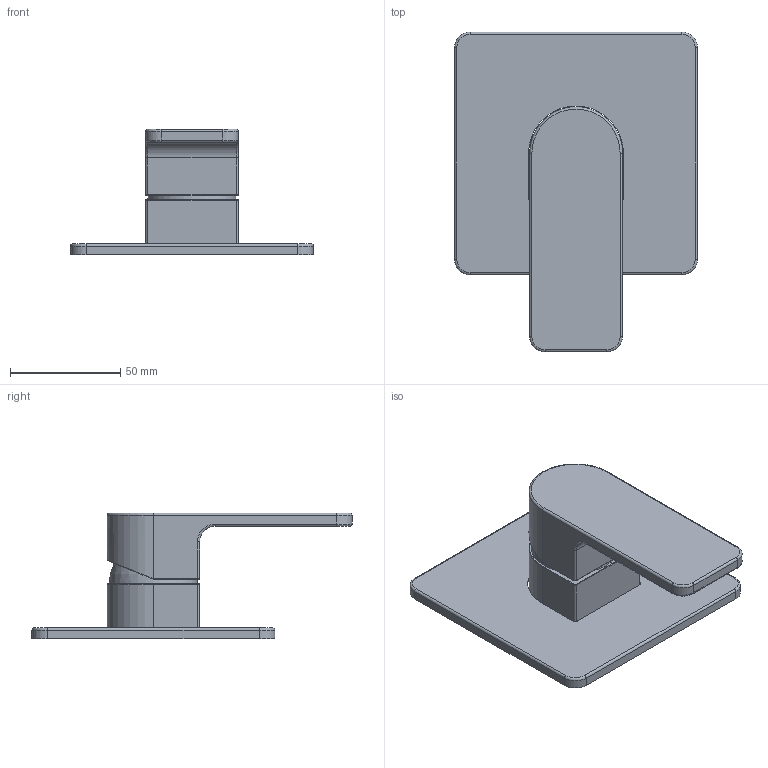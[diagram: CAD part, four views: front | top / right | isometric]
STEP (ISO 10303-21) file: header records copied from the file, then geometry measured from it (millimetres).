
FILE_DESCRIPTION(/* description */ (''),/* implementation_level */ '2;1');
FILE_NAME(/* name */ 'c:\worker\convert-fusion-oct-2018\tmp\job-1\220\output\files\af99626a-2cf7-445c-a564-237d67b48aa5\dbe8f491-6113-4ed8-9fa1-7cb6bf8140cf.stp',/* time_stamp */ '2018-10-17T11:35:19+00:00',/* author */ (''),/* organization */ (''),/* preprocessor_version */ 'ST-DEVELOPER v17.2',/* originating_system */ 'Autodesk Translation Framework v7.6.0.251',/* authorisation */ '');
FILE_SCHEMA (('AUTOMOTIVE_DESIGN { 1 0 10303 214 3 1 1 }'));
Length unit declared in the file: millimetre
Products named in the file (1): !BA7845
Bounding box: 110 x 145 x 57 mm (x, y, z)
Volume: 130469 mm3; surface area: 48801.4 mm2
Topology: 4 solids, 4 shells, 84 faces, 192 edges, 116 vertices
Faces by surface type: cylinder 38, plane 28, torus 16, sphere 1, bspline 1
Entity records: 2436 total; most frequent: DIRECTION 452, CARTESIAN_POINT 441, ORIENTED_EDGE 382, EDGE_CURVE 191, AXIS2_PLACEMENT_3D 177, VERTEX_POINT 116, LINE 98, VECTOR 98
